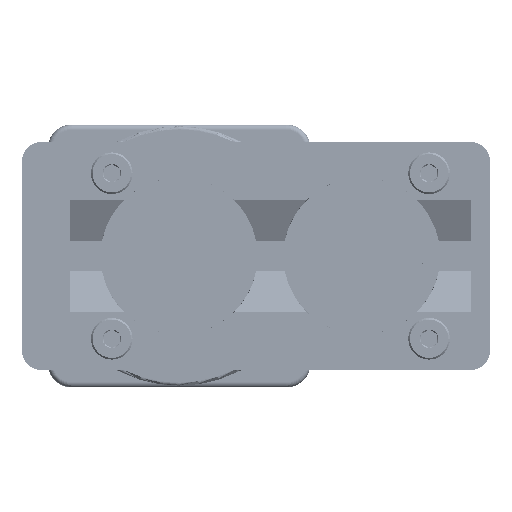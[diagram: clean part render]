
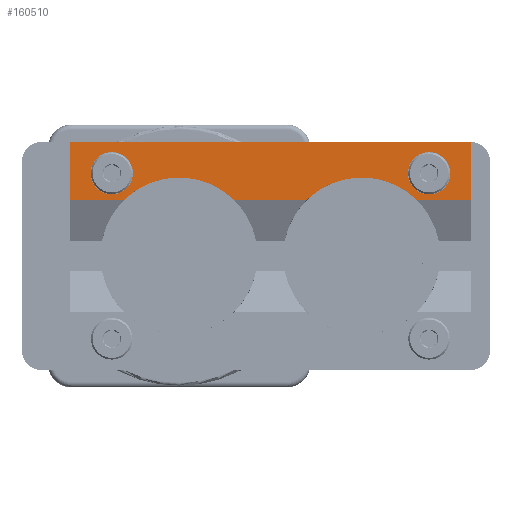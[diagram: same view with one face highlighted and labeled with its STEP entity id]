
A CAD part, front view. The second image highlights one B-rep face of the part: STEP entity #160510.
In plain terms, the highlighted planar face has unit normal (0, -1, 0).
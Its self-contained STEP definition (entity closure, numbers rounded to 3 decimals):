
#601 = EDGE_CURVE ( 'NONE', #80587, #264159, #183903, .T. ) ;
#5321 = VERTEX_POINT ( 'NONE', #188327 ) ;
#5955 = EDGE_CURVE ( 'NONE', #139227, #38568, #57715, .T. ) ;
#11896 = EDGE_CURVE ( 'NONE', #127709, #222578, #39489, .T. ) ;
#17342 = DIRECTION ( 'NONE',  ( -1., 0., 0. ) ) ;
#17625 = CARTESIAN_POINT ( 'NONE',  ( 60., -1.5, 17.762 ) ) ;
#18685 = CARTESIAN_POINT ( 'NONE',  ( 63., -1.5, 17.762 ) ) ;
#21124 = ORIENTED_EDGE ( 'NONE', *, *, #11896, .T. ) ;
#30393 = AXIS2_PLACEMENT_3D ( 'NONE', #287050, #192997, #125243 ) ;
#32464 = ORIENTED_EDGE ( 'NONE', *, *, #244010, .F. ) ;
#34099 = EDGE_CURVE ( 'NONE', #5321, #222578, #141392, .T. ) ;
#34555 = CARTESIAN_POINT ( 'NONE',  ( 29., -1.5, 0.202 ) ) ;
#37024 = CARTESIAN_POINT ( 'NONE',  ( -49., -1.5, 26.012 ) ) ;
#38568 = VERTEX_POINT ( 'NONE', #57430 ) ;
#39254 = DIRECTION ( 'NONE',  ( -1., 0., 0. ) ) ;
#39489 = LINE ( 'NONE', #225677, #203772 ) ;
#40966 = VECTOR ( 'NONE', #157227, 1000. ) ;
#42793 = CARTESIAN_POINT ( 'NONE',  ( 63., -1.5, 35.762 ) ) ;
#45466 = VERTEX_POINT ( 'NONE', #260522 ) ;
#52983 = DIRECTION ( 'NONE',  ( 0., 0., -1. ) ) ;
#57412 = FACE_BOUND ( 'NONE', #288807, .T. ) ;
#57430 = CARTESIAN_POINT ( 'NONE',  ( 46.085, -1.5, 17.762 ) ) ;
#57715 = LINE ( 'NONE', #17625, #173658 ) ;
#60481 = DIRECTION ( 'NONE',  ( 0., -1., 0. ) ) ;
#62081 = AXIS2_PLACEMENT_3D ( 'NONE', #34555, #223829, #145799 ) ;
#64115 = EDGE_CURVE ( 'NONE', #162489, #90176, #178108, .T. ) ;
#65489 = VERTEX_POINT ( 'NONE', #187582 ) ;
#80542 = PLANE ( 'NONE',  #30393 ) ;
#80587 = VERTEX_POINT ( 'NONE', #127509 ) ;
#90176 = VERTEX_POINT ( 'NONE', #139799 ) ;
#95572 = CARTESIAN_POINT ( 'NONE',  ( 50., -1.5, 19.412 ) ) ;
#95974 = EDGE_CURVE ( 'NONE', #38568, #80587, #116201, .T. ) ;
#97933 = DIRECTION ( 'NONE',  ( 0., -1., 0. ) ) ;
#100775 = DIRECTION ( 'NONE',  ( 0., -1., 0. ) ) ;
#102158 = FACE_OUTER_BOUND ( 'NONE', #258245, .T. ) ;
#102571 = ORIENTED_EDGE ( 'NONE', *, *, #5955, .F. ) ;
#104746 = DIRECTION ( 'NONE',  ( 0., 0., -1. ) ) ;
#116201 = CIRCLE ( 'NONE', #62081, 24.5 ) ;
#116691 = EDGE_CURVE ( 'NONE', #90176, #162489, #186981, .T. ) ;
#116845 = CARTESIAN_POINT ( 'NONE',  ( -62., -1.5, 17.762 ) ) ;
#123810 = CIRCLE ( 'NONE', #261457, 6.6 ) ;
#125243 = DIRECTION ( 'NONE',  ( 0., 0., -1. ) ) ;
#127509 = CARTESIAN_POINT ( 'NONE',  ( 11.915, -1.5, 17.762 ) ) ;
#127709 = VERTEX_POINT ( 'NONE', #42793 ) ;
#128564 = VERTEX_POINT ( 'NONE', #164120 ) ;
#132007 = CARTESIAN_POINT ( 'NONE',  ( -62., -1.5, 35.762 ) ) ;
#134005 = AXIS2_PLACEMENT_3D ( 'NONE', #271510, #60481, #154375 ) ;
#134343 = LINE ( 'NONE', #228216, #181760 ) ;
#138034 = AXIS2_PLACEMENT_3D ( 'NONE', #37024, #177020, #104746 ) ;
#139210 = DIRECTION ( 'NONE',  ( -1., 0., 0. ) ) ;
#139227 = VERTEX_POINT ( 'NONE', #182094 ) ;
#139799 = CARTESIAN_POINT ( 'NONE',  ( 50., -1.5, 32.612 ) ) ;
#141392 = LINE ( 'NONE', #116845, #290517 ) ;
#145799 = DIRECTION ( 'NONE',  ( 0., 0., -1. ) ) ;
#148580 = DIRECTION ( 'NONE',  ( 0., 0., 1. ) ) ;
#154375 = DIRECTION ( 'NONE',  ( 0., 0., -1. ) ) ;
#157227 = DIRECTION ( 'NONE',  ( 0., 0., -1. ) ) ;
#159848 = EDGE_CURVE ( 'NONE', #45466, #65489, #231460, .T. ) ;
#160510 = ADVANCED_FACE ( 'NONE', ( #102158, #57412, #291555 ), #80542, .T. ) ;
#162295 = ORIENTED_EDGE ( 'NONE', *, *, #235443, .F. ) ;
#162489 = VERTEX_POINT ( 'NONE', #95572 ) ;
#164120 = CARTESIAN_POINT ( 'NONE',  ( -45.085, -1.5, 17.762 ) ) ;
#166236 = ORIENTED_EDGE ( 'NONE', *, *, #116691, .F. ) ;
#169955 = CARTESIAN_POINT ( 'NONE',  ( -49., -1.5, 26.012 ) ) ;
#171322 = VECTOR ( 'NONE', #139210, 1000. ) ;
#173658 = VECTOR ( 'NONE', #39254, 1000. ) ;
#177020 = DIRECTION ( 'NONE',  ( 0., -1., 0. ) ) ;
#178108 = CIRCLE ( 'NONE', #134005, 6.6 ) ;
#179458 = DIRECTION ( 'NONE',  ( -1., 0., 0. ) ) ;
#181760 = VECTOR ( 'NONE', #17342, 1000. ) ;
#182094 = CARTESIAN_POINT ( 'NONE',  ( 63., -1.5, 17.762 ) ) ;
#183903 = LINE ( 'NONE', #234673, #171322 ) ;
#185256 = DIRECTION ( 'NONE',  ( 0., 0., -1. ) ) ;
#186981 = CIRCLE ( 'NONE', #211588, 6.6 ) ;
#187582 = CARTESIAN_POINT ( 'NONE',  ( -49., -1.5, 32.612 ) ) ;
#188327 = CARTESIAN_POINT ( 'NONE',  ( -62., -1.5, 17.762 ) ) ;
#192997 = DIRECTION ( 'NONE',  ( 0., -1., 0. ) ) ;
#203772 = VECTOR ( 'NONE', #179458, 1000. ) ;
#211588 = AXIS2_PLACEMENT_3D ( 'NONE', #214789, #97933, #285782 ) ;
#212719 = EDGE_LOOP ( 'NONE', ( #224591, #166236 ) ) ;
#212738 = ORIENTED_EDGE ( 'NONE', *, *, #232605, .F. ) ;
#214789 = CARTESIAN_POINT ( 'NONE',  ( 50., -1.5, 26.012 ) ) ;
#222578 = VERTEX_POINT ( 'NONE', #132007 ) ;
#223818 = CARTESIAN_POINT ( 'NONE',  ( -10.915, -1.5, 17.762 ) ) ;
#223829 = DIRECTION ( 'NONE',  ( 0., -1., 0. ) ) ;
#224591 = ORIENTED_EDGE ( 'NONE', *, *, #64115, .F. ) ;
#225677 = CARTESIAN_POINT ( 'NONE',  ( 60., -1.5, 35.762 ) ) ;
#228216 = CARTESIAN_POINT ( 'NONE',  ( 60., -1.5, 17.762 ) ) ;
#231460 = CIRCLE ( 'NONE', #138034, 6.6 ) ;
#232605 = EDGE_CURVE ( 'NONE', #128564, #5321, #134343, .T. ) ;
#234673 = CARTESIAN_POINT ( 'NONE',  ( 60., -1.5, 17.762 ) ) ;
#235443 = EDGE_CURVE ( 'NONE', #127709, #139227, #252807, .T. ) ;
#235597 = AXIS2_PLACEMENT_3D ( 'NONE', #282360, #299395, #185256 ) ;
#236211 = ORIENTED_EDGE ( 'NONE', *, *, #159848, .F. ) ;
#240476 = ORIENTED_EDGE ( 'NONE', *, *, #298249, .F. ) ;
#244010 = EDGE_CURVE ( 'NONE', #264159, #128564, #294860, .T. ) ;
#252807 = LINE ( 'NONE', #18685, #40966 ) ;
#258245 = EDGE_LOOP ( 'NONE', ( #32464, #300925, #293051, #102571, #162295, #21124, #272720, #212738 ) ) ;
#260522 = CARTESIAN_POINT ( 'NONE',  ( -49., -1.5, 19.412 ) ) ;
#261457 = AXIS2_PLACEMENT_3D ( 'NONE', #169955, #100775, #52983 ) ;
#264159 = VERTEX_POINT ( 'NONE', #223818 ) ;
#271510 = CARTESIAN_POINT ( 'NONE',  ( 50., -1.5, 26.012 ) ) ;
#272720 = ORIENTED_EDGE ( 'NONE', *, *, #34099, .F. ) ;
#282360 = CARTESIAN_POINT ( 'NONE',  ( -28., -1.5, 0.202 ) ) ;
#285782 = DIRECTION ( 'NONE',  ( 0., 0., -1. ) ) ;
#287050 = CARTESIAN_POINT ( 'NONE',  ( 60., -1.5, 44.928 ) ) ;
#288807 = EDGE_LOOP ( 'NONE', ( #236211, #240476 ) ) ;
#290517 = VECTOR ( 'NONE', #148580, 1000. ) ;
#291555 = FACE_BOUND ( 'NONE', #212719, .T. ) ;
#293051 = ORIENTED_EDGE ( 'NONE', *, *, #95974, .F. ) ;
#294860 = CIRCLE ( 'NONE', #235597, 24.5 ) ;
#298249 = EDGE_CURVE ( 'NONE', #65489, #45466, #123810, .T. ) ;
#299395 = DIRECTION ( 'NONE',  ( 0., -1., 0. ) ) ;
#300925 = ORIENTED_EDGE ( 'NONE', *, *, #601, .F. ) ;
